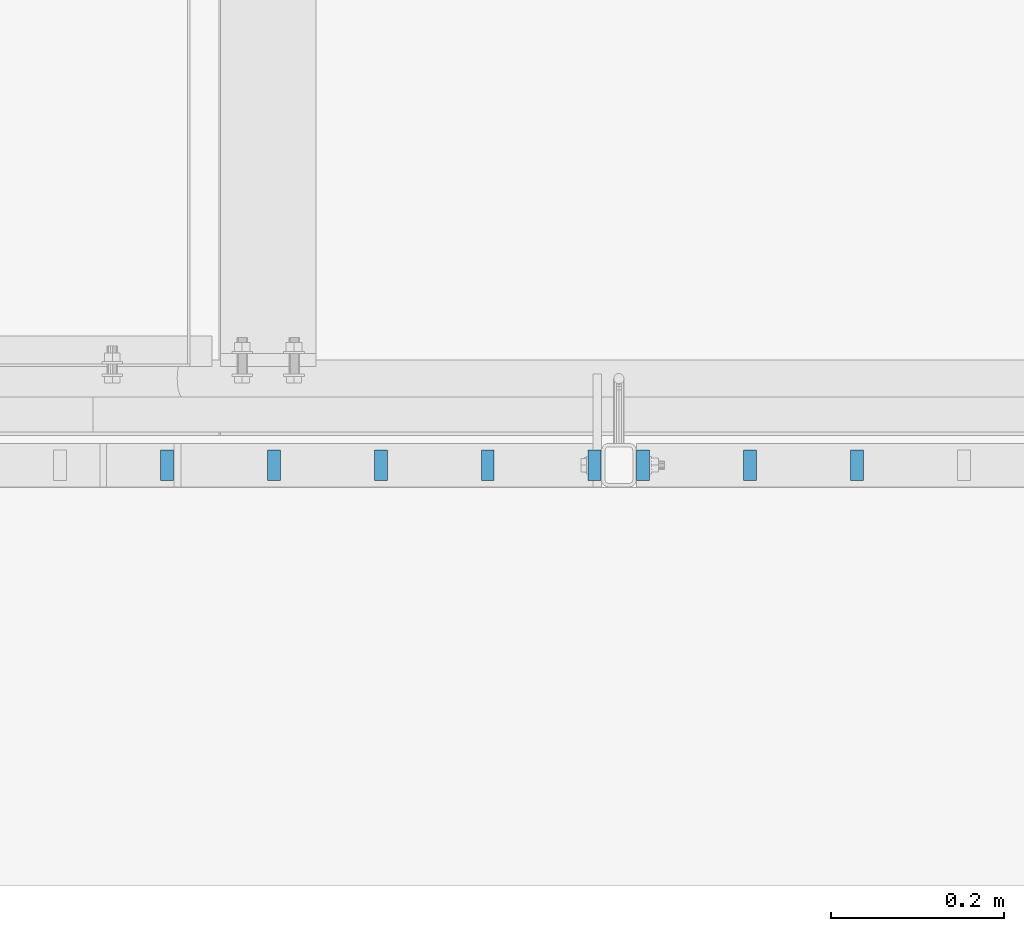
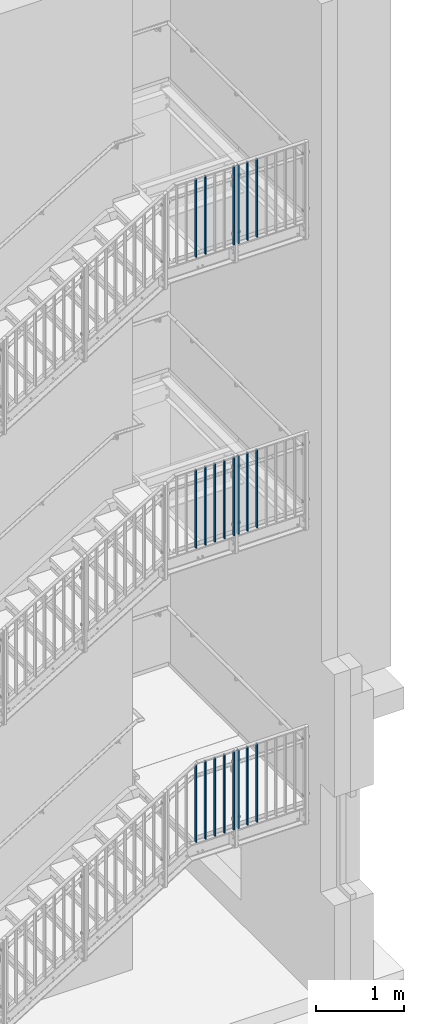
# One storey, part 21 of 410: 22 columns, 12 openings.
"""IFC2X3 building model written with IfcOpenShell, lengths in millimetres."""

from ifc_helpers import new_model, entity, si_unit, converted_unit, frame, frame_2d, origin, origin_with_axes, origin_2d, place, context, project, spatial, rectangle, circle, extrude, material, element, save


model = new_model("IFC2X3")

# Units and contexts
model_context = context("Model", 3, precision=1e-09, world=origin_with_axes())
ifc_project = project(units=[si_unit("LENGTHUNIT", "METRE", prefix="MILLI"), si_unit("AREAUNIT", "SQUARE_METRE"), si_unit("VOLUMEUNIT", "CUBIC_METRE"), converted_unit("PLANEANGLEUNIT", "DEGREE", entity("IfcPlaneAngleMeasure", 0.01745329), si_unit("PLANEANGLEUNIT", "RADIAN"), dimensions=[0, 0, 0, 0, 0, 0, 0])], contexts=[model_context])

# Site, building, storey
site_placement = place(None, origin_with_axes())
site = spatial("IfcSite", under=ifc_project, at=site_placement, Name="mKR Teilneubau & Sanierung BA1 - Ostfildern", CompositionType="ELEMENT")
building_placement = place(site_placement, origin_with_axes())
building = spatial("IfcBuilding", under=site, at=building_placement, Name="Struktur 1", CompositionType="ELEMENT")
storey_placement = place(building_placement, origin_with_axes())
storey = spatial("IfcBuildingStorey", under=building, at=storey_placement, Name="Default Storey", CompositionType="ELEMENT", Elevation=0.0)

# Columns
ifc_material = material(Name="S235JR")
for number, where, z_axis, x_axis in (
    (1, (1886.715754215, 15405.999999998, 5925.0), (0.0, 0.0, -1.0), (1.0, 0.0, 0.0)),
    (2, (1763.287182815, 15405.999999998, 5925.0), (0.0, 0.0, -1.0), (1.0, 0.0, 0.0)),
    (3, (2133.572897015, 15405.999999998, 1913.0434785), (0.0, 0.0, -1.0), (1.0, 0.0, 0.0)),
    (4, (2010.144325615, 15405.999999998, 1913.0434785), (0.0, 0.0, -1.0), (1.0, 0.0, 0.0)),
    (5, (1886.715754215, 15405.999999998, 1913.0434785), (0.0, 0.0, -1.0), (1.0, 0.0, 0.0)),
    (6, (1763.287182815, 15405.999999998, 1913.0434785), (0.0, 0.0, -1.0), (1.0, 0.0, 0.0)),
    (7, (2436.430039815, 15405.999999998, 1913.0434785), (0.0, 0.0, -1.0), (1.0, 0.0, 0.0)),
    (8, (2559.858611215, 15405.999999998, 1913.0434785), (0.0, 0.0, -1.0), (1.0, 0.0, 0.0)),
):
    element("IfcColumn", number, at=place(None, frame(where, z_axis=z_axis, x_axis=x_axis)), inside=storey, material=ifc_material, Name="-", ObjectType="-", context=model_context, shape_type="SweptSolid", body=[
        extrude(rectangle(XDim=15.0, YDim=35.0, at=origin_2d()), origin(), (0.0, 0.0, -1.0), 1085.0),
    ])
column_1_placement = place(None, frame((1763.287182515, 15405.999999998, -2145.6), z_axis=(0.0, 0.0, -1.0), x_axis=(1.0, 0.0, 0.0)))
element("IfcColumn", 9, at=column_1_placement, inside=storey, material=ifc_material, Name="-", ObjectType="-", context=model_context, shape_type="SweptSolid", body=[
    extrude(rectangle(XDim=15.0, YDim=35.0, at=origin_2d()), origin(), (0.0, 0.0, -1.0), 1070.532425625),
])
for number, where, z_axis, x_axis in (
    (10, (1886.715753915, 15405.999999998, -2145.6), (0.0, 0.0, -1.0), (1.0, 0.0, 0.0)),
    (11, (2010.144325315, 15405.999999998, -2145.6), (0.0, 0.0, -1.0), (1.0, 0.0, 0.0)),
    (12, (2133.572896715, 15405.999999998, -2145.6), (0.0, 0.0, -1.0), (1.0, 0.0, 0.0)),
):
    element("IfcColumn", number, at=place(None, frame(where, z_axis=z_axis, x_axis=x_axis)), inside=storey, material=ifc_material, Name="-", ObjectType="-", context=model_context, shape_type="SweptSolid", body=[
        extrude(rectangle(XDim=15.0, YDim=35.0, at=origin_2d()), origin(), (0.0, 0.0, -1.0), 1085.0),
    ])

# Column, openings
column_2_placement = place(None, frame((2313.001468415, 15405.999999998, 5925.0), z_axis=(0.0, 0.0, -1.0), x_axis=(1.0, 0.0, 0.0)))
column_2 = element("IfcColumn", 13, at=column_2_placement, inside=storey, material=ifc_material, Name="-", ObjectType="-", context=model_context, shape_type="SweptSolid", body=[
    extrude(rectangle(XDim=15.0, YDim=35.0, at=origin_2d()), origin(), (0.0, 0.0, -1.0), 1085.0),
])
opening_1_placement = place(column_2_placement, frame((8.0, -6.001, -150.0), z_axis=(1.0, 0.0, 0.0), x_axis=(0.0, 1.0, 0.0)))
element("IfcOpeningElement", 14, at=opening_1_placement, cuts=column_2, ObjectType="Opening", context=model_context, shape_type="SweptSolid", body=[
    extrude(circle(Radius=6.001, at=frame_2d((6.001, 0.0), x_axis=(1.0, 0.0))), origin(), (0.0, 0.0, -1.0), 16.0),
])
opening_2_placement = place(column_2_placement, frame((8.0, -6.001, -935.0), z_axis=(1.0, 0.0, 0.0), x_axis=(0.0, 1.0, 0.0)))
element("IfcOpeningElement", 15, at=opening_2_placement, cuts=column_2, ObjectType="Opening", context=model_context, shape_type="SweptSolid", body=[
    extrude(circle(Radius=6.001, at=frame_2d((6.001, 0.0), x_axis=(1.0, 0.0))), origin(), (0.0, 0.0, -1.0), 16.0),
])

# Columns
for number, where, z_axis, x_axis in (
    (16, (2436.430039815, 15405.999999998, 5925.0), (0.0, 0.0, -1.0), (1.0, 0.0, 0.0)),
    (17, (2559.858611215, 15405.999999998, 5925.0), (0.0, 0.0, -1.0), (1.0, 0.0, 0.0)),
):
    element("IfcColumn", number, at=place(None, frame(where, z_axis=z_axis, x_axis=x_axis)), inside=storey, material=ifc_material, Name="-", ObjectType="-", context=model_context, shape_type="SweptSolid", body=[
        extrude(rectangle(XDim=15.0, YDim=35.0, at=origin_2d()), origin(), (0.0, 0.0, -1.0), 1085.0),
    ])

# Column, openings
column_3_placement = place(None, frame((2313.001468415, 15405.999999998, -2145.6), z_axis=(0.0, 0.0, -1.0), x_axis=(1.0, 0.0, 0.0)))
column_3 = element("IfcColumn", 18, at=column_3_placement, inside=storey, material=ifc_material, Name="-", ObjectType="-", context=model_context, shape_type="SweptSolid", body=[
    extrude(rectangle(XDim=15.0, YDim=35.0, at=origin_2d()), origin(), (0.0, 0.0, -1.0), 1085.0),
])
opening_3_placement = place(column_3_placement, frame((8.0, -6.001, -150.0), z_axis=(1.0, 0.0, 0.0), x_axis=(0.0, 1.0, 0.0)))
element("IfcOpeningElement", 19, at=opening_3_placement, cuts=column_3, ObjectType="Opening", context=model_context, shape_type="SweptSolid", body=[
    extrude(circle(Radius=6.001, at=frame_2d((6.001, 0.0), x_axis=(1.0, 0.0))), origin(), (0.0, 0.0, -1.0), 16.0),
])
opening_4_placement = place(column_3_placement, frame((8.0, -6.001, -935.0), z_axis=(1.0, 0.0, 0.0), x_axis=(0.0, 1.0, 0.0)))
element("IfcOpeningElement", 20, at=opening_4_placement, cuts=column_3, ObjectType="Opening", context=model_context, shape_type="SweptSolid", body=[
    extrude(circle(Radius=6.001, at=frame_2d((6.001, 0.0), x_axis=(1.0, 0.0))), origin(), (0.0, 0.0, -1.0), 16.0),
])

# Columns
for number, where, z_axis, x_axis in (
    (21, (2436.430039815, 15405.999999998, -2145.6), (0.0, 0.0, -1.0), (1.0, 0.0, 0.0)),
    (22, (2559.858611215, 15405.999999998, -2145.6), (0.0, 0.0, -1.0), (1.0, 0.0, 0.0)),
):
    element("IfcColumn", number, at=place(None, frame(where, z_axis=z_axis, x_axis=x_axis)), inside=storey, material=ifc_material, Name="-", ObjectType="-", context=model_context, shape_type="SweptSolid", body=[
        extrude(rectangle(XDim=15.0, YDim=35.0, at=origin_2d()), origin(), (0.0, 0.0, -1.0), 1085.0),
    ])

# Column, openings
column_4_placement = place(None, frame((2257.001468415, 15405.999999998, 5925.0), z_axis=(0.0, 0.0, -1.0), x_axis=(1.0, 0.0, 0.0)))
column_4 = element("IfcColumn", 23, at=column_4_placement, inside=storey, material=ifc_material, Name="-", ObjectType="-", context=model_context, shape_type="SweptSolid", body=[
    extrude(rectangle(XDim=15.0, YDim=35.0, at=origin_2d()), origin(), (0.0, 0.0, -1.0), 1085.0),
])
opening_5_placement = place(column_4_placement, frame((8.0, -6.001, -150.0), z_axis=(1.0, 0.0, 0.0), x_axis=(0.0, 1.0, 0.0)))
element("IfcOpeningElement", 24, at=opening_5_placement, cuts=column_4, ObjectType="Opening", context=model_context, shape_type="SweptSolid", body=[
    extrude(circle(Radius=6.001, at=frame_2d((6.001, 0.0), x_axis=(1.0, 0.0))), origin(), (0.0, 0.0, -1.0), 16.0),
])
opening_6_placement = place(column_4_placement, frame((8.0, -6.001, -935.0), z_axis=(1.0, 0.0, 0.0), x_axis=(0.0, 1.0, 0.0)))
element("IfcOpeningElement", 25, at=opening_6_placement, cuts=column_4, ObjectType="Opening", context=model_context, shape_type="SweptSolid", body=[
    extrude(circle(Radius=6.001, at=frame_2d((6.001, 0.0), x_axis=(1.0, 0.0))), origin(), (0.0, 0.0, -1.0), 16.0),
])

column_5_placement = place(None, frame((2313.001468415, 15405.999999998, 1913.0434785), z_axis=(0.0, 0.0, -1.0), x_axis=(1.0, 0.0, 0.0)))
column_5 = element("IfcColumn", 26, at=column_5_placement, inside=storey, material=ifc_material, Name="-", ObjectType="-", context=model_context, shape_type="SweptSolid", body=[
    extrude(rectangle(XDim=15.0, YDim=35.0, at=origin_2d()), origin(), (0.0, 0.0, -1.0), 1085.0),
])
opening_7_placement = place(column_5_placement, frame((8.0, -6.001, -150.0), z_axis=(1.0, 0.0, 0.0), x_axis=(0.0, 1.0, 0.0)))
element("IfcOpeningElement", 27, at=opening_7_placement, cuts=column_5, ObjectType="Opening", context=model_context, shape_type="SweptSolid", body=[
    extrude(circle(Radius=6.001, at=frame_2d((6.001, 0.0), x_axis=(1.0, 0.0))), origin(), (0.0, 0.0, -1.0), 16.0),
])
opening_8_placement = place(column_5_placement, frame((8.0, -6.001, -935.0), z_axis=(1.0, 0.0, 0.0), x_axis=(0.0, 1.0, 0.0)))
element("IfcOpeningElement", 28, at=opening_8_placement, cuts=column_5, ObjectType="Opening", context=model_context, shape_type="SweptSolid", body=[
    extrude(circle(Radius=6.001, at=frame_2d((6.001, 0.0), x_axis=(1.0, 0.0))), origin(), (0.0, 0.0, -1.0), 16.0),
])

column_6_placement = place(None, frame((2257.001468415, 15405.999999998, 1913.0434785), z_axis=(0.0, 0.0, -1.0), x_axis=(1.0, 0.0, 0.0)))
column_6 = element("IfcColumn", 29, at=column_6_placement, inside=storey, material=ifc_material, Name="-", ObjectType="-", context=model_context, shape_type="SweptSolid", body=[
    extrude(rectangle(XDim=15.0, YDim=35.0, at=origin_2d()), origin(), (0.0, 0.0, -1.0), 1085.0),
])
opening_9_placement = place(column_6_placement, frame((8.0, -6.001, -150.0), z_axis=(1.0, 0.0, 0.0), x_axis=(0.0, 1.0, 0.0)))
element("IfcOpeningElement", 30, at=opening_9_placement, cuts=column_6, ObjectType="Opening", context=model_context, shape_type="SweptSolid", body=[
    extrude(circle(Radius=6.001, at=frame_2d((6.001, 0.0), x_axis=(1.0, 0.0))), origin(), (0.0, 0.0, -1.0), 16.0),
])
opening_10_placement = place(column_6_placement, frame((8.0, -6.001, -935.0), z_axis=(1.0, 0.0, 0.0), x_axis=(0.0, 1.0, 0.0)))
element("IfcOpeningElement", 31, at=opening_10_placement, cuts=column_6, ObjectType="Opening", context=model_context, shape_type="SweptSolid", body=[
    extrude(circle(Radius=6.001, at=frame_2d((6.001, 0.0), x_axis=(1.0, 0.0))), origin(), (0.0, 0.0, -1.0), 16.0),
])

column_7_placement = place(None, frame((2257.001468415, 15405.999999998, -2145.6), z_axis=(0.0, 0.0, -1.0), x_axis=(1.0, 0.0, 0.0)))
column_7 = element("IfcColumn", 32, at=column_7_placement, inside=storey, material=ifc_material, Name="-", ObjectType="-", context=model_context, shape_type="SweptSolid", body=[
    extrude(rectangle(XDim=15.0, YDim=35.0, at=origin_2d()), origin(), (0.0, 0.0, -1.0), 1085.0),
])
opening_11_placement = place(column_7_placement, frame((8.0, -6.001, -150.0), z_axis=(1.0, 0.0, 0.0), x_axis=(0.0, 1.0, 0.0)))
element("IfcOpeningElement", 33, at=opening_11_placement, cuts=column_7, ObjectType="Opening", context=model_context, shape_type="SweptSolid", body=[
    extrude(circle(Radius=6.001, at=frame_2d((6.001, 0.0), x_axis=(1.0, 0.0))), origin(), (0.0, 0.0, -1.0), 16.0),
])
opening_12_placement = place(column_7_placement, frame((8.0, -6.001, -935.0), z_axis=(1.0, 0.0, 0.0), x_axis=(0.0, 1.0, 0.0)))
element("IfcOpeningElement", 34, at=opening_12_placement, cuts=column_7, ObjectType="Opening", context=model_context, shape_type="SweptSolid", body=[
    extrude(circle(Radius=6.001, at=frame_2d((6.001, 0.0), x_axis=(1.0, 0.0))), origin(), (0.0, 0.0, -1.0), 16.0),
])

save(model, "model.ifc")
